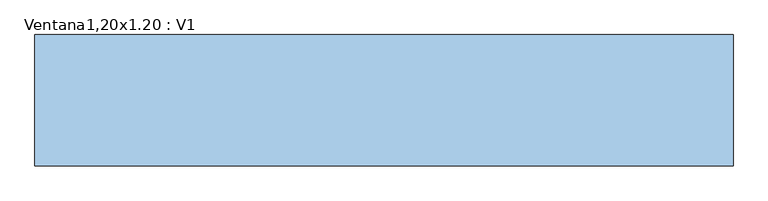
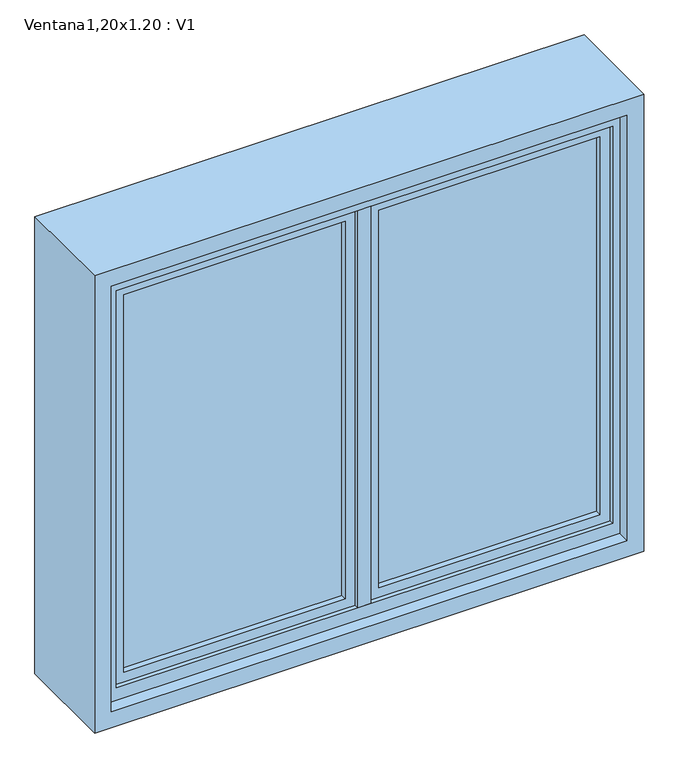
"""IFC4 building model written with IfcOpenShell, lengths in millimetres: window geometry, Ventana1,20x1.20 : V1."""

from ifc_helpers import new_model, si_unit, frame, origin, place, context, project, spatial, polyline, outline, extrude, faceted_brep, source, transform, mapped, element, save


def ventana1_20x1_20_v1_279ed5bb(model_context):
    return source(origin(), model_context, "Body", "SolidModel", [
        faceted_brep([(-591.953009, 65.0, 2102.0), (-591.953009, -75.0, 2102.0), (-591.953009, -75.0, 1078.0), (-591.953009, 65.0, 1078.0), (-629.953009, -75.0, 1040.0), (620.046991, -75.0, 1040.0), (620.046991, -75.0, 2140.0), (-629.953009, -75.0, 2140.0), (582.046991, -75.0, 2102.0), (582.046991, -75.0, 1078.0), (582.046991, 65.0, 1078.0), (-610.953009, 65.0, 2121.0), (601.046991, 65.0, 2121.0), (601.046991, 65.0, 1059.0), (-610.953009, 65.0, 1059.0), (582.046991, 65.0, 2102.0), (-610.953009, 160.0, 2121.0), (-610.953009, 160.0, 1059.0), (601.046991, 160.0, 1059.0), (-629.953009, 160.0, 2140.0), (620.046991, 160.0, 2140.0), (620.046991, 160.0, 1040.0), (-629.953009, 160.0, 1040.0), (601.046991, 160.0, 2121.0)], [[[0, 1, 2, 3]], [[4, 5, 6, 7], [1, 8, 9, 2]], [[3, 2, 9, 10]], [[11, 12, 13, 14], [3, 10, 15, 0]], [[16, 11, 14, 17]], [[17, 14, 13, 18]], [[19, 20, 21, 22], [17, 18, 23, 16]], [[7, 19, 22, 4]], [[4, 22, 21, 5]], [[10, 9, 8, 15]], [[18, 13, 12, 23]], [[5, 21, 20, 6]], [[15, 8, 1, 0]], [[23, 12, 11, 16]], [[6, 20, 19, 7]]]),
        extrude(outline(polyline([(15.0, 32.25), (15.0, -47.75), (-15.0, -47.75), (-15.0, 32.25), (15.0, 32.25)])), frame((0.0, 0.0, 1110.0), z_axis=(0.0, 0.0, 1.0), x_axis=(1.0, 0.0, 0.0)), (0.0, 0.0, 1.0), 955.0),
        extrude(outline(polyline([(23.0, 8.25), (557.0, 8.25), (557.0, -23.75), (23.0, -23.75), (23.0, 8.25)])), frame((0.0, 0.0, 1118.0), z_axis=(0.0, 0.0, 1.0), x_axis=(1.0, 0.0, 0.0)), (0.0, 0.0, 1.0), 939.0),
        faceted_brep([(15.0, 22.25, 2065.0), (15.0, 22.25, 1110.0), (15.0, -37.75, 1110.0), (15.0, -37.75, 2065.0), (565.0, -37.75, 2065.0), (565.0, -37.75, 1110.0), (38.0, -37.75, 2042.0), (542.0, -37.75, 2042.0), (542.0, -37.75, 1133.0), (38.0, -37.75, 1133.0), (565.0, 22.25, 1110.0), (565.0, 22.25, 2065.0), (542.0, 22.25, 2042.0), (38.0, 22.25, 2042.0), (38.0, 22.25, 1133.0), (542.0, 22.25, 1133.0), (38.0, 8.25, 2042.0), (38.0, 8.25, 1133.0), (542.0, 8.25, 1133.0), (557.0, 8.25, 2057.0), (23.0, 8.25, 2057.0), (23.0, 8.25, 1118.0), (557.0, 8.25, 1118.0), (542.0, 8.25, 2042.0), (23.0, -23.75, 2057.0), (23.0, -23.75, 1118.0), (557.0, -23.75, 1118.0), (557.0, -23.75, 2057.0), (542.0, -23.75, 2042.0), (38.0, -23.75, 2042.0), (38.0, -23.75, 1133.0), (542.0, -23.75, 1133.0)], [[[0, 1, 2, 3]], [[4, 3, 2, 5], [6, 7, 8, 9]], [[1, 10, 5, 2]], [[0, 11, 10, 1], [12, 13, 14, 15]], [[16, 17, 14, 13]], [[17, 18, 15, 14]], [[19, 20, 21, 22], [16, 23, 18, 17]], [[24, 25, 21, 20]], [[25, 26, 22, 21]], [[24, 27, 26, 25], [28, 29, 30, 31]], [[6, 9, 30, 29]], [[9, 8, 31, 30]], [[10, 11, 4, 5]], [[18, 23, 12, 15]], [[26, 27, 19, 22]], [[8, 7, 28, 31]], [[11, 0, 3, 4]], [[23, 16, 13, 12]], [[27, 24, 20, 19]], [[7, 6, 29, 28]]]),
        extrude(outline(polyline([(-23.0, 8.25), (-23.0, -23.75), (-557.0, -23.75), (-557.0, 8.25), (-23.0, 8.25)])), frame((0.0, 0.0, 1118.0), z_axis=(0.0, 0.0, 1.0), x_axis=(1.0, 0.0, 0.0)), (0.0, 0.0, 1.0), 939.0),
        faceted_brep([(-15.0, 22.25, 2065.0), (-15.0, -37.75, 2065.0), (-15.0, -37.75, 1110.0), (-15.0, 22.25, 1110.0), (-565.0, -37.75, 2065.0), (-565.0, -37.75, 1110.0), (-38.0, -37.75, 2042.0), (-38.0, -37.75, 1133.0), (-542.0, -37.75, 1133.0), (-542.0, -37.75, 2042.0), (-565.0, 22.25, 1110.0), (-565.0, 22.25, 2065.0), (-542.0, 22.25, 2042.0), (-542.0, 22.25, 1133.0), (-38.0, 22.25, 1133.0), (-38.0, 22.25, 2042.0), (-38.0, 8.25, 2042.0), (-38.0, 8.25, 1133.0), (-542.0, 8.25, 1133.0), (-557.0, 8.25, 2057.0), (-557.0, 8.25, 1118.0), (-23.0, 8.25, 1118.0), (-23.0, 8.25, 2057.0), (-542.0, 8.25, 2042.0), (-23.0, -23.75, 2057.0), (-23.0, -23.75, 1118.0), (-557.0, -23.75, 1118.0), (-557.0, -23.75, 2057.0), (-542.0, -23.75, 2042.0), (-542.0, -23.75, 1133.0), (-38.0, -23.75, 1133.0), (-38.0, -23.75, 2042.0)], [[[0, 1, 2, 3]], [[4, 5, 2, 1], [6, 7, 8, 9]], [[3, 2, 5, 10]], [[0, 3, 10, 11], [12, 13, 14, 15]], [[16, 15, 14, 17]], [[17, 14, 13, 18]], [[19, 20, 21, 22], [16, 17, 18, 23]], [[24, 22, 21, 25]], [[25, 21, 20, 26]], [[24, 25, 26, 27], [28, 29, 30, 31]], [[6, 31, 30, 7]], [[7, 30, 29, 8]], [[10, 5, 4, 11]], [[18, 13, 12, 23]], [[26, 20, 19, 27]], [[8, 29, 28, 9]], [[11, 4, 1, 0]], [[23, 12, 15, 16]], [[27, 19, 22, 24]], [[9, 28, 31, 6]]]),
        extrude(outline(polyline([(2095.0, -595.0), (1080.0, -595.0), (1080.0, 595.0), (2095.0, 595.0), (2095.0, -595.0)]), holes=[polyline([(2065.0, 565.0), (1110.0, 565.0), (1110.0, -565.0), (2065.0, -565.0), (2065.0, 565.0)])]), frame((0.0, -47.75, 0.0), z_axis=(0.0, 1.0, 0.0), x_axis=(0.0, 0.0, 1.0)), (0.0, 0.0, 1.0), 80.0),
    ])


if __name__ == "__main__":
    model = new_model("IFC4")
    model_context = context("Model", 3, world=origin())
    ifc_project = project(units=[si_unit("LENGTHUNIT", "METRE", prefix="MILLI")], contexts=[model_context])
    site = spatial("IfcSite", under=ifc_project)
    building = spatial("IfcBuilding", under=site)
    placement = place(None, origin())
    ventana1_20x1_20_v1_shape = ventana1_20x1_20_v1_279ed5bb(model_context)
    element("IfcWindow", 1, ObjectType="Ventana1,20x1.20 : V1", at=placement, inside=building, context=model_context, shape_type="MappedRepresentation", body=[
        mapped(ventana1_20x1_20_v1_shape, transform((0.0, 0.0, 0.0), x_axis=(1.0, 0.0, 0.0), y_axis=(0.0, 1.0, 0.0), z_axis=(0.0, 0.0, 1.0))),
    ])
    save(model, "model.ifc")
